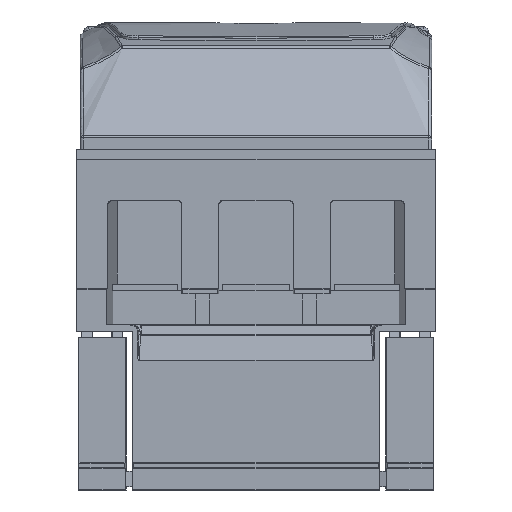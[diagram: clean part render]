
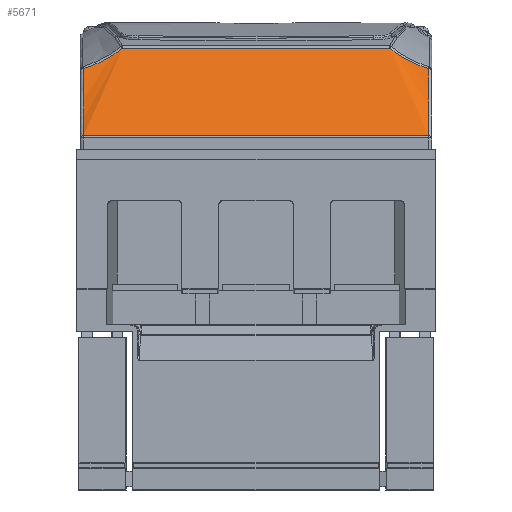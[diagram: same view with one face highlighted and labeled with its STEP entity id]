
A CAD part, left-side view. The second image highlights one B-rep face of the part: STEP entity #5671.
In plain terms, the highlighted face is a extrusion surface.
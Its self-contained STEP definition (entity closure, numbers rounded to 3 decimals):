
#264=SURFACE_OF_LINEAR_EXTRUSION('',#2562,#31868);
#2562=ELLIPSE('',#34137,35.,12.5);
#4391=B_SPLINE_CURVE_WITH_KNOTS('',3,(#60656,#60657,#60658,#60659,#60660,
#60661),.UNSPECIFIED.,.F.,.F.,(4,2,4),(0.,0.5,1.),.UNSPECIFIED.);
#4392=B_SPLINE_CURVE_WITH_KNOTS('',3,(#60666,#60667,#60668,#60669,#60670,
#60671),.UNSPECIFIED.,.F.,.F.,(4,2,4),(0.,0.5,1.),.UNSPECIFIED.);
#4393=B_SPLINE_CURVE_WITH_KNOTS('',3,(#60673,#60674,#60675,#60676),
 .UNSPECIFIED.,.F.,.F.,(4,4),(0.,1.),.UNSPECIFIED.);
#4394=B_SPLINE_CURVE_WITH_KNOTS('',3,(#60680,#60681,#60682,#60683),
 .UNSPECIFIED.,.F.,.F.,(4,4),(0.,1.),.UNSPECIFIED.);
#5671=ADVANCED_FACE('',(#7908),#264,.F.);
#7908=FACE_OUTER_BOUND('',#9712,.T.);
#9712=EDGE_LOOP('',(#13899,#13900,#13901,#13902,#13903,#13904));
#13899=ORIENTED_EDGE('',*,*,#25943,.T.);
#13900=ORIENTED_EDGE('',*,*,#25944,.T.);
#13901=ORIENTED_EDGE('',*,*,#25945,.T.);
#13902=ORIENTED_EDGE('',*,*,#25946,.T.);
#13903=ORIENTED_EDGE('',*,*,#25947,.T.);
#13904=ORIENTED_EDGE('',*,*,#25948,.T.);
#22356=VERTEX_POINT('',#60662);
#22357=VERTEX_POINT('',#60663);
#22358=VERTEX_POINT('',#60665);
#22359=VERTEX_POINT('',#60672);
#22360=VERTEX_POINT('',#60677);
#22361=VERTEX_POINT('',#60679);
#25943=EDGE_CURVE('',#22356,#22357,#4391,.T.);
#25944=EDGE_CURVE('',#22357,#22358,#29921,.T.);
#25945=EDGE_CURVE('',#22358,#22359,#4392,.T.);
#25946=EDGE_CURVE('',#22359,#22360,#4393,.T.);
#25947=EDGE_CURVE('',#22360,#22361,#29922,.T.);
#25948=EDGE_CURVE('',#22361,#22356,#4394,.T.);
#29921=LINE('',#60664,#31866);
#29922=LINE('',#60678,#31867);
#31866=VECTOR('',#38584,1.);
#31867=VECTOR('',#38585,1.);
#31868=VECTOR('',#38588,1.);
#34137=AXIS2_PLACEMENT_3D('',#60684,#38586,#38587);
#38584=DIRECTION('',(0.,1.,0.));
#38585=DIRECTION('',(0.,-1.,0.));
#38586=DIRECTION('',(0.,-1.,0.));
#38587=DIRECTION('',(0.568,0.,0.823));
#38588=DIRECTION('',(0.,-1.,0.));
#60656=CARTESIAN_POINT('',(-45.037,-51.,95.653));
#60657=CARTESIAN_POINT('',(-44.737,-48.893,96.326));
#60658=CARTESIAN_POINT('',(-44.378,-46.856,97.159));
#60659=CARTESIAN_POINT('',(-43.58,-42.956,99.166));
#60660=CARTESIAN_POINT('',(-43.149,-41.108,100.308));
#60661=CARTESIAN_POINT('',(-42.684,-39.476,101.757));
#60662=CARTESIAN_POINT('',(-45.037,-51.,95.653));
#60663=CARTESIAN_POINT('',(-42.684,-39.476,101.757));
#60664=CARTESIAN_POINT('',(-42.684,-39.476,101.757));
#60665=CARTESIAN_POINT('',(-42.684,39.476,101.757));
#60666=CARTESIAN_POINT('',(-42.684,39.476,101.757));
#60667=CARTESIAN_POINT('',(-43.151,41.115,100.302));
#60668=CARTESIAN_POINT('',(-43.588,42.995,99.144));
#60669=CARTESIAN_POINT('',(-44.38,46.869,97.155));
#60670=CARTESIAN_POINT('',(-44.737,48.892,96.327));
#60671=CARTESIAN_POINT('',(-45.037,51.,95.653));
#60672=CARTESIAN_POINT('',(-45.037,51.,95.653));
#60673=CARTESIAN_POINT('',(-45.037,51.,95.653));
#60674=CARTESIAN_POINT('',(-48.209,51.,88.527));
#60675=CARTESIAN_POINT('',(-52.405,51.,81.903));
#60676=CARTESIAN_POINT('',(-57.291,51.,75.823));
#60677=CARTESIAN_POINT('',(-57.291,51.,75.823));
#60678=CARTESIAN_POINT('',(-57.291,52.,75.823));
#60679=CARTESIAN_POINT('',(-57.291,-51.,75.823));
#60680=CARTESIAN_POINT('',(-57.291,-51.,75.823));
#60681=CARTESIAN_POINT('',(-52.406,-51.,81.901));
#60682=CARTESIAN_POINT('',(-48.208,-51.,88.529));
#60683=CARTESIAN_POINT('',(-45.037,-51.,95.653));
#60684=CARTESIAN_POINT('',(-63.388,52.,88.55));
